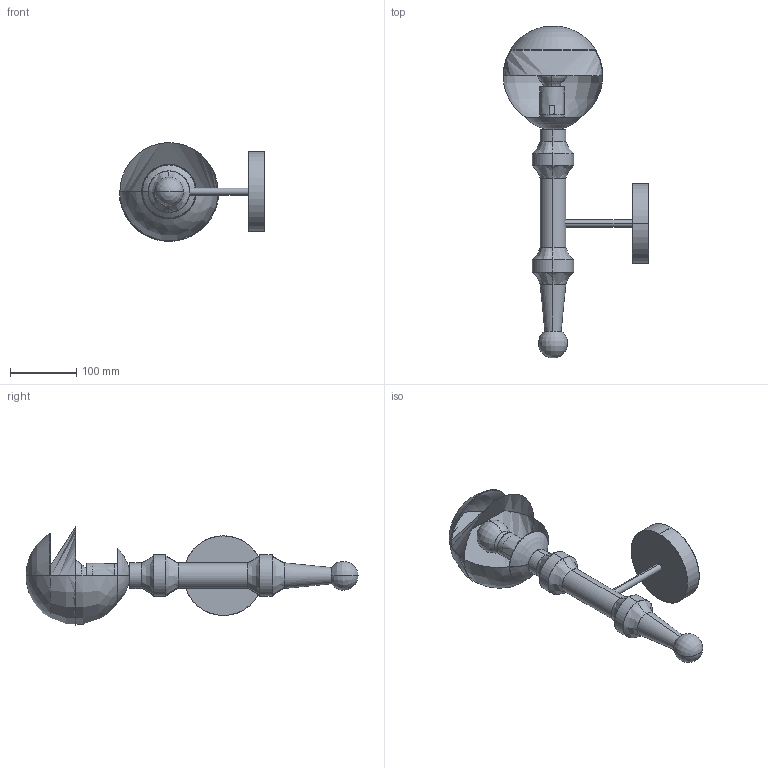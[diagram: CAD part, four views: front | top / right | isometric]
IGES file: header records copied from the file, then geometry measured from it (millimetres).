
Start section: SolidWorks IGES file using analytic representation for surfaces
Global section: file name: F:\燠隴矨\3D\2026-3\Elowen Drop Wall Sconce.IGS,15; native system: HSolidWorks 2022; preprocessor: SolidWorks 2022; author: MyPC; date: 260307.143032; units: millimetre
Bounding box: 219.34 x 500.3 x 149 mm (x, y, z)
Surface area: 237403.6 mm2 (no closed solid volume)
Topology: 0 solids, 0 shells, 123 faces, 1338 edges, 1332 vertices
Faces by surface type: revolution 76, bspline 47
